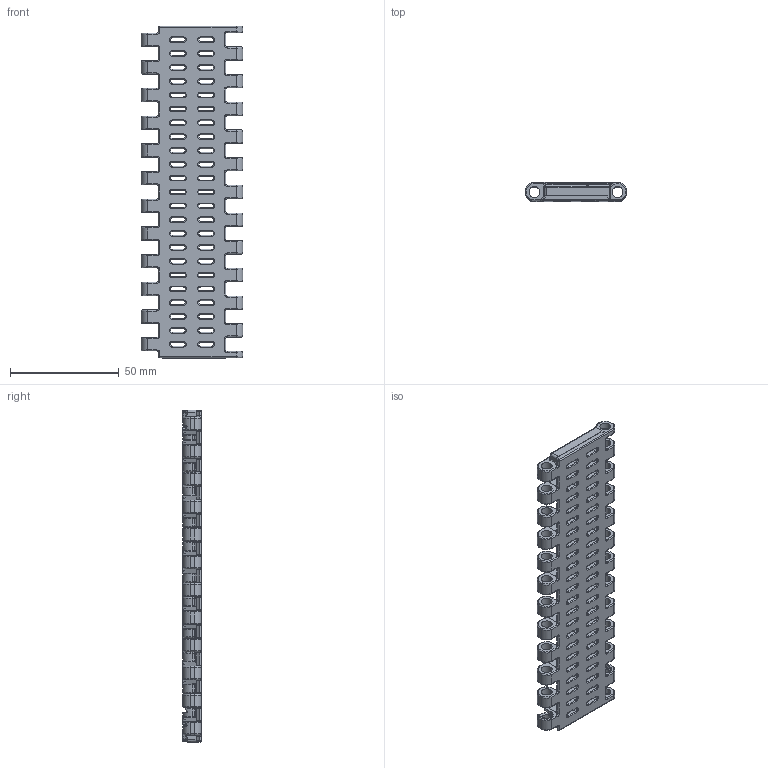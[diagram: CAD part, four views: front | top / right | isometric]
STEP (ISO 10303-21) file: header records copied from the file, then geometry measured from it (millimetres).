
FILE_DESCRIPTION((''),'2;1');
FILE_NAME('P425','2016-06-13T',('jas'),(''),'CREO PARAMETRIC BY PTC INC, 2016050','CREO PARAMETRIC BY PTC INC, 2016050','');
FILE_SCHEMA(('AUTOMOTIVE_DESIGN { 1 0 10303 214 1 1 1 1 }'));
Products named in the file (1): P425
Bounding box: 46.58 x 8.51 x 152.3 mm (x, y, z)
Volume: 20262.4 mm3; surface area: 22825.9 mm2
Topology: 1 solids, 1 shells, 3392 faces, 8967 edges, 5661 vertices
Faces by surface type: plane 2013, cylinder 775, torus 312, bspline 258, sphere 30, cone 4
Entity records: 125954 total; most frequent: CARTESIAN_POINT 43222, ORIENTED_EDGE 17934, DIRECTION 15891, EDGE_CURVE 8967, VECTOR 6455, LINE 6455, VERTEX_POINT 5661, AXIS2_PLACEMENT_3D 4718
